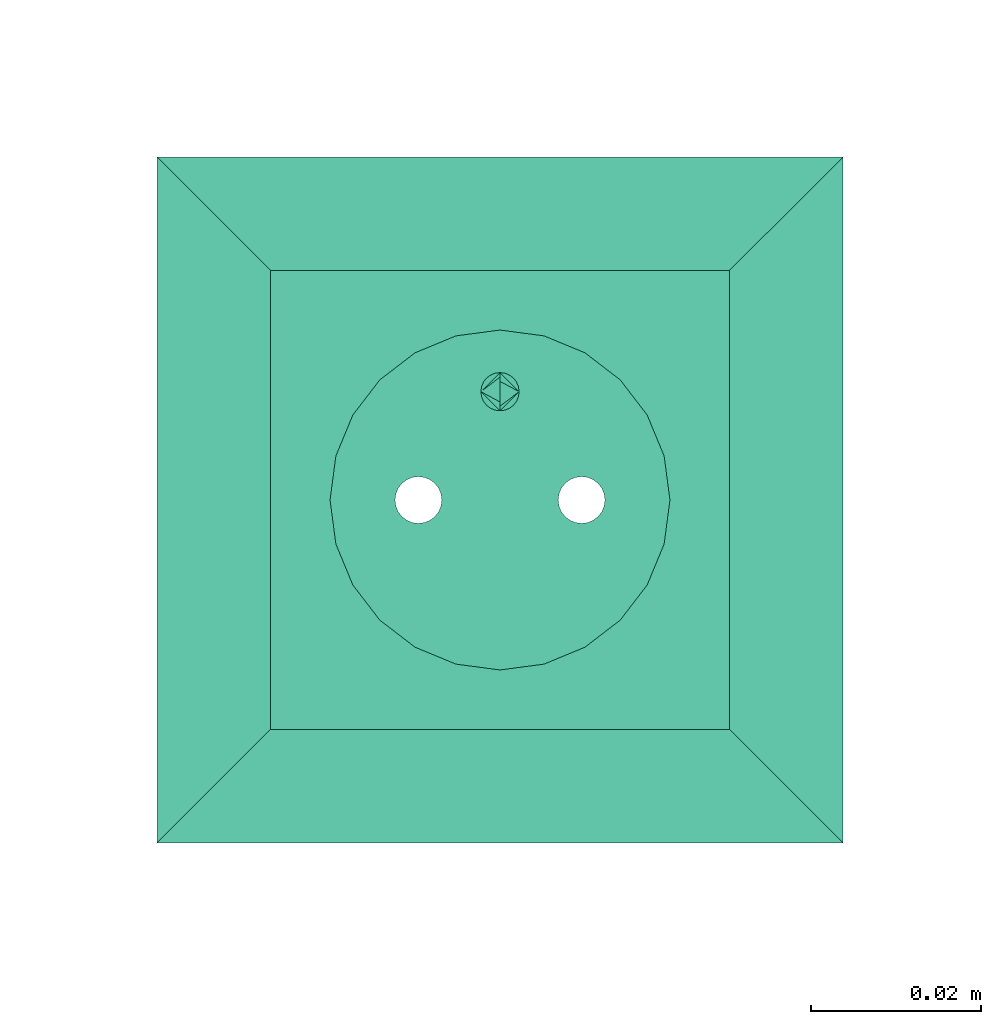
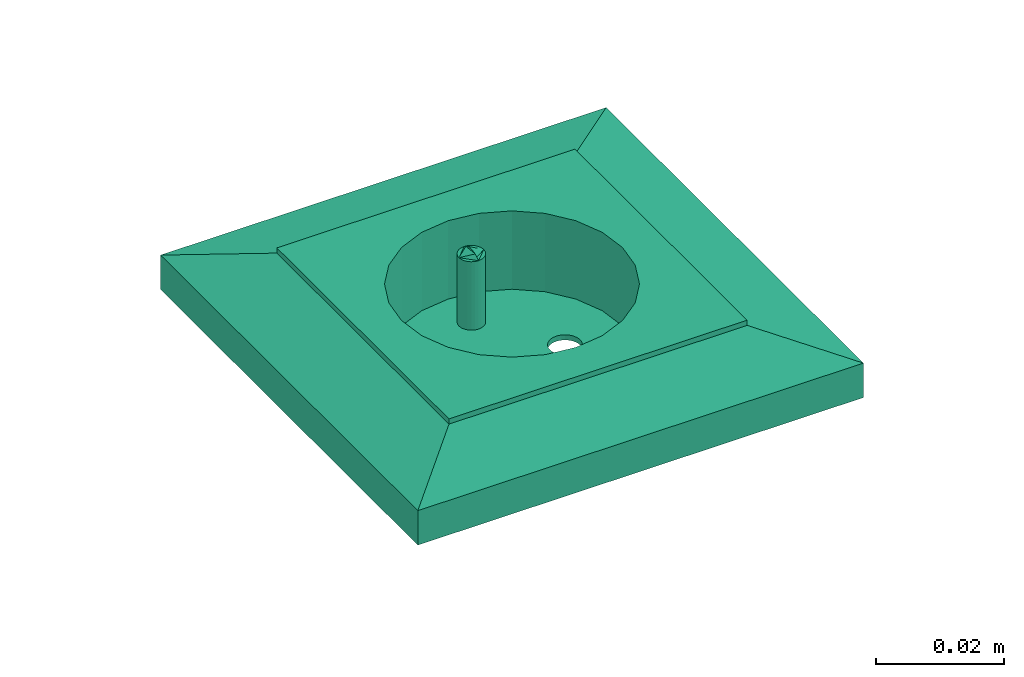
# One storey, part 40 of 153: 1 flow terminal.
"""IFC2X3 building model written with IfcOpenShell, lengths in metres."""

import ifcopenshell
import ifcopenshell.guid

model = None  # the IFC model being written
_history = None  # IfcOwnerHistory: only IFC2X3 demands one
_inside = {}  # id of a spatial element -> (the spatial element, [elements in it])
_under = {}  # id of a project, library or spatial element -> (it, [spatial elements below it])
_declared = {}  # id of a project -> (the project, [libraries it declares])
_typed = {}  # id of a type object -> (the type object, [elements of that type])
_made_of = {}  # id of a material, layer set ... -> (it, [elements and type objects made of it])


def new_model(schema):
    """Start an empty IFC model of exactly this schema.

    Asked for "IFC4X3", IfcOpenShell would pick the latest addendum, in which some entities
    have other attributes; the version numbers below select the first issue.
    IFC2X3 requires an IfcOwnerHistory on every rooted entity: one is made here for all.
    """
    global model, _history
    if schema == "IFC4X3":
        model = ifcopenshell.file(schema_version=(4, 3, 0, 0))
    else:
        model = ifcopenshell.file(schema=schema)
    _inside.clear()
    _under.clear()
    _declared.clear()
    _typed.clear()
    _made_of.clear()
    _history = None
    if model.schema == "IFC2X3":
        org = make("IfcOrganization", Name="unknown")
        user = make(
            "IfcPersonAndOrganization",
            ThePerson=make("IfcPerson", FamilyName="unknown"),
            TheOrganization=org,
        )
        app = make(
            "IfcApplication",
            ApplicationDeveloper=org,
            Version="unknown",
            ApplicationFullName="unknown",
            ApplicationIdentifier="unknown",
        )
        _history = make(
            "IfcOwnerHistory",
            OwningUser=user,
            OwningApplication=app,
            ChangeAction="ADDED",
            CreationDate=0,
        )
    return model


def make(cls, **values):
    """One entity of the class cls with the attributes given. An attribute that is None is left unset."""
    return model.create_entity(
        cls, **{name: value for name, value in values.items() if value is not None}
    )


def entity(cls, *values):
    """Any entity or typed value of the class cls, its attributes in the order of the schema. None: left unset."""
    e = model.create_entity(cls)
    for i, value in enumerate(values):
        if value is not None:
            e[i] = value
    return e


def rooted(cls, **values):
    """An entity with a GlobalId (a new one), such as an element, a storey or a relation."""
    return make(cls, GlobalId=ifcopenshell.guid.new(), OwnerHistory=_history, **values)


def si_unit(unit_type, name, prefix=None):
    """IfcSIUnit, for example si_unit("LENGTHUNIT", "METRE", prefix="MILLI")."""
    return make("IfcSIUnit", UnitType=unit_type, Prefix=prefix, Name=name)


def converted_unit(unit_type, name, factor, base, dimensions=None, offset=None):
    """IfcConversionBasedUnit, such as the inch: factor (a typed value) times the base unit."""
    return make(
        "IfcConversionBasedUnit"
        if offset is None
        else "IfcConversionBasedUnitWithOffset",
        ConversionOffset=offset,
        Dimensions=None
        if dimensions is None
        else entity("IfcDimensionalExponents", *dimensions),
        UnitType=unit_type,
        Name=name,
        ConversionFactor=make(
            "IfcMeasureWithUnit", ValueComponent=factor, UnitComponent=base
        ),
    )


def derived_unit(unit_type, elements):
    """IfcDerivedUnit: a product of units, each with its exponent."""
    return make(
        "IfcDerivedUnit",
        Elements=[
            make("IfcDerivedUnitElement", Unit=unit, Exponent=power)
            for unit, power in elements
        ],
        UnitType=unit_type,
    )


def assignment(units):
    """IfcUnitAssignment: the units of a project."""
    return None if units is None else make("IfcUnitAssignment", Units=units)


def point(xyz):
    """IfcCartesianPoint."""
    return None if xyz is None else make("IfcCartesianPoint", Coordinates=xyz)


def direction(xyz):
    """IfcDirection."""
    return None if xyz is None else make("IfcDirection", DirectionRatios=xyz)


def frame(location, z_axis=None, x_axis=None):
    """IfcAxis2Placement3D, a coordinate frame: its origin and axes. An axis left out is left unset."""
    return make(
        "IfcAxis2Placement3D",
        Location=point(location),
        Axis=direction(z_axis),
        RefDirection=direction(x_axis),
    )


def origin():
    """The frame at (0, 0, 0) with its axes left unset."""
    return frame((0.0, 0.0, 0.0))


def place(relative_to, where):
    """IfcLocalPlacement: puts the frame where relative to a parent placement (None: the world)."""
    return make(
        "IfcLocalPlacement", PlacementRelTo=relative_to, RelativePlacement=where
    )


def context(
    kind, dimensions, precision=None, world=None, true_north=None, identifier=None
):
    """IfcGeometricRepresentationContext, for example the 3D "Model" context."""
    return make(
        "IfcGeometricRepresentationContext",
        ContextIdentifier=identifier,
        ContextType=kind,
        CoordinateSpaceDimension=dimensions,
        Precision=precision,
        WorldCoordinateSystem=world,
        TrueNorth=true_north,
    )


def subcontext(parent, identifier, kind, view, scale=None):
    """IfcGeometricRepresentationSubContext, for example "Body" below "Model"."""
    return make(
        "IfcGeometricRepresentationSubContext",
        ContextIdentifier=identifier,
        ContextType=kind,
        ParentContext=parent,
        TargetScale=scale,
        TargetView=view,
    )


def project(units=None, contexts=None):
    """IfcProject with its units and contexts."""
    return rooted(
        "IfcProject",
        Name="project",
        RepresentationContexts=contexts,
        UnitsInContext=assignment(units),
    )


def spatial(cls, under=None, at=None, **own):
    """A site, building, storey or space (cls), placed at a placement, below another one or the project."""
    s = rooted(cls, ObjectPlacement=at, **own)
    if under is not None:
        _under.setdefault(under.id(), (under, []))[1].append(s)
    return s


def faces_of(points, faces, orient=None, outer=None):
    """IfcFace entities. A face is a list of loops; a loop is a list of indices into points, from 0.

    orient and outer hold one flag for each loop. By default every Orientation is true, the
    first loop of a face is its IfcFaceOuterBound and the others are IfcFaceBound.
    """
    made = []
    for i, loops in enumerate(faces):
        bounds = []
        for j, loop in enumerate(loops):
            is_outer = j == 0 if outer is None else outer[i][j]
            bounds.append(
                make(
                    "IfcFaceOuterBound" if is_outer else "IfcFaceBound",
                    Bound=make("IfcPolyLoop", Polygon=[points[k] for k in loop]),
                    Orientation=True if orient is None else orient[i][j],
                )
            )
        made.append(make("IfcFace", Bounds=bounds))
    return made


def face_set(faces, orient=None, outer=None):
    """The faces of one IfcConnectedFaceSet. surface_model builds it on its shared points."""
    return ("IfcConnectedFaceSet", faces, orient, outer)


def surface_model(cls, points, shells):
    """IfcFaceBasedSurfaceModel or IfcShellBasedSurfaceModel (cls): surfaces that need not close."""
    shared = [point(p) for p in points]
    made = [make(c, CfsFaces=faces_of(shared, fs, o, b)) for c, fs, o, b in shells]
    if cls == "IfcFaceBasedSurfaceModel":
        return make(cls, FbsmFaces=made)
    return make(cls, SbsmBoundary=made)


def shape(context_of_items, identifier, shape_type, items):
    """IfcShapeRepresentation: the items that make up one representation, for example the "Body"."""
    return make(
        "IfcShapeRepresentation",
        ContextOfItems=context_of_items,
        RepresentationIdentifier=identifier,
        RepresentationType=shape_type,
        Items=items,
    )


def source(mapping_origin, context_of_items, identifier, shape_type, items):
    """IfcRepresentationMap: a shape defined once, which mapped items show again and again."""
    return make(
        "IfcRepresentationMap",
        MappingOrigin=mapping_origin,
        MappedRepresentation=shape(context_of_items, identifier, shape_type, items),
    )


def transform(
    local_origin,
    x_axis=None,
    y_axis=None,
    z_axis=None,
    scale=None,
    scale2=None,
    scale3=None,
    uniform=True,
):
    """IfcCartesianTransformationOperator3D, or its non-uniform kind. x_axis, y_axis, z_axis: its Axis1, 2, 3."""
    if uniform:
        return make(
            "IfcCartesianTransformationOperator3D",
            Axis1=direction(x_axis),
            Axis2=direction(y_axis),
            LocalOrigin=point(local_origin),
            Scale=scale,
            Axis3=direction(z_axis),
        )
    return make(
        "IfcCartesianTransformationOperator3DnonUniform",
        Axis1=direction(x_axis),
        Axis2=direction(y_axis),
        LocalOrigin=point(local_origin),
        Scale=scale,
        Axis3=direction(z_axis),
        Scale2=scale2,
        Scale3=scale3,
    )


def mapped(mapping_source, mapping_target):
    """IfcMappedItem: shows the shape of a source again, moved by a transform."""
    return make(
        "IfcMappedItem", MappingSource=mapping_source, MappingTarget=mapping_target
    )


def made_of(thing, what):
    """Note that an element or type object is made of a material, layer set ...; save() writes the relation."""
    if what is not None:
        _made_of.setdefault(what.id(), (what, []))[1].append(thing)
    return thing


def type_object(cls, material=None, **own):
    """A type object (cls), such as IfcWallType, which elements share."""
    return made_of(rooted(cls, **own), material)


def type_shapes(of_type, sources):
    """Give a type object the sources (RepresentationMaps) that its elements show as mapped items."""
    of_type.RepresentationMaps = sources


def element(
    cls,
    number,
    at=None,
    inside=None,
    cuts=None,
    type_object=None,
    material=None,
    context=None,
    identifier="Body",
    shape_type=None,
    held_by="IfcProductDefinitionShape",
    body=None,
    shapes=None,
    **own,
):
    """One element of the class cls, such as IfcWall. Its Tag is "e" and its number.

    at: its placement. inside: the storey or other place that contains it. cuts: it is an
    opening in that element (IfcRelVoidsElement). A single representation is given by context,
    identifier, shape_type and body (its items); several are given by shapes. held_by: the class
    of the entity that holds the representations. save() writes the other relations.
    """
    e = rooted(cls, Tag="e%d" % number, ObjectPlacement=at, **own)
    if body is not None:
        shapes = [shape(context, identifier, shape_type, body)]
    if shapes is not None:
        e.Representation = make(held_by, Representations=shapes)
    if inside is not None:
        _inside.setdefault(inside.id(), (inside, []))[1].append(e)
    if cuts is not None:
        rooted(
            "IfcRelVoidsElement", RelatingBuildingElement=cuts, RelatedOpeningElement=e
        )
    if type_object is not None:
        _typed.setdefault(type_object.id(), (type_object, []))[1].append(e)
    return made_of(e, material)


def aggregate(whole, parts):
    """IfcRelAggregates: a whole, such as a stair, and the parts it consists of."""
    return rooted("IfcRelAggregates", RelatingObject=whole, RelatedObjects=parts)


def save(model, path):
    """Write the relations noted so far, then the file.

    IfcRelAggregates (storeys below a building ...), IfcRelContainedInSpatialStructure (elements
    in a storey), IfcRelDefinesByType, IfcRelAssociatesMaterial and IfcRelDeclares: one each for
    every whole, place, type object, material and project.
    """
    for whole, parts in _under.values():
        aggregate(whole, parts)
    for where, things in _inside.values():
        rooted(
            "IfcRelContainedInSpatialStructure",
            RelatedElements=things,
            RelatingStructure=where,
        )
    for kind, things in _typed.values():
        rooted("IfcRelDefinesByType", RelatedObjects=things, RelatingType=kind)
    for what, things in _made_of.values():
        rooted("IfcRelAssociatesMaterial", RelatedObjects=things, RelatingMaterial=what)
    for by, libraries in _declared.values():
        rooted("IfcRelDeclares", RelatingContext=by, RelatedDefinitions=libraries)
    model.write(path)


model = new_model("IFC2X3")

# Units and contexts
model_context = context("Model", 3, precision=1e-05, world=origin(), true_north=direction((6.12303176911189e-17, 1.0)))
body_context = subcontext(model_context, "Body", "Model", "MODEL_VIEW")
ifc_project = project(units=[si_unit("LENGTHUNIT", "METRE"), si_unit("AREAUNIT", "SQUARE_METRE"), si_unit("VOLUMEUNIT", "CUBIC_METRE"), converted_unit("PLANEANGLEUNIT", "DEGREE", entity("IfcRatioMeasure", 0.0174532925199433), si_unit("PLANEANGLEUNIT", "RADIAN"), dimensions=[0, 0, 0, 0, 0, 0, 0]), si_unit("MASSUNIT", "GRAM", prefix="KILO"), derived_unit("MASSDENSITYUNIT", [(si_unit("MASSUNIT", "GRAM", prefix="KILO"), 1), (si_unit("LENGTHUNIT", "METRE"), -3)]), si_unit("TIMEUNIT", "SECOND"), si_unit("FREQUENCYUNIT", "HERTZ"), si_unit("THERMODYNAMICTEMPERATUREUNIT", "DEGREE_CELSIUS"), derived_unit("THERMALTRANSMITTANCEUNIT", [(si_unit("MASSUNIT", "GRAM", prefix="KILO"), 1), (si_unit("THERMODYNAMICTEMPERATUREUNIT", "KELVIN"), -1), (si_unit("TIMEUNIT", "SECOND"), -3)]), derived_unit("VOLUMETRICFLOWRATEUNIT", [(si_unit("LENGTHUNIT", "METRE"), 3), (si_unit("TIMEUNIT", "SECOND"), -1)]), si_unit("ELECTRICCURRENTUNIT", "AMPERE"), si_unit("ELECTRICVOLTAGEUNIT", "VOLT"), si_unit("POWERUNIT", "WATT"), si_unit("FORCEUNIT", "NEWTON"), si_unit("ILLUMINANCEUNIT", "LUX"), si_unit("LUMINOUSFLUXUNIT", "LUMEN"), si_unit("LUMINOUSINTENSITYUNIT", "CANDELA"), derived_unit("USERDEFINED", [(si_unit("MASSUNIT", "GRAM", prefix="KILO"), -1), (si_unit("LENGTHUNIT", "METRE"), -2), (si_unit("TIMEUNIT", "SECOND"), 3), (si_unit("LUMINOUSFLUXUNIT", "LUMEN"), 1)]), derived_unit("LINEARVELOCITYUNIT", [(si_unit("LENGTHUNIT", "METRE"), 1), (si_unit("TIMEUNIT", "SECOND"), -1)]), si_unit("PRESSUREUNIT", "PASCAL"), derived_unit("USERDEFINED", [(si_unit("LENGTHUNIT", "METRE"), -2), (si_unit("MASSUNIT", "GRAM", prefix="KILO"), 1), (si_unit("TIMEUNIT", "SECOND"), -2)])], contexts=[model_context])

# Site, building, storey
site_placement = place(None, origin())
site = spatial("IfcSite", under=ifc_project, at=site_placement, Name="Default", CompositionType="ELEMENT")
building_placement = place(site_placement, origin())
building = spatial("IfcBuilding", under=site, at=building_placement, CompositionType="ELEMENT")
storey_placement = place(building_placement, frame((0.0, 0.0, -4.62)))
storey = spatial("IfcBuildingStorey", under=building, at=storey_placement, Name="S02", CompositionType="ELEMENT", Elevation=-4.62)

# Flow terminal
light_fixture_type = type_object("IfcLightFixtureType", Name="PC IP55", PredefinedType="NOTDEFINED")
shared_shape = source(origin(), body_context, "Body", "SurfaceModel", [
    surface_model("IfcFaceBasedSurfaceModel", [(-0.00225000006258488, 0.0127499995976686, 0.00949633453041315), (0.0, 0.0104999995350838, 0.00949633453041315), (0.0, 0.0115376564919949, 0.0101656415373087), (0.0, 0.0139623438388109, 0.0101656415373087), (0.0, 0.0144589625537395, 0.00984531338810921), (0.0, 0.0121178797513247, 0.0102778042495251), (0.0, 0.0133821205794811, 0.0102778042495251), (0.0, 0.0127499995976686, 0.010399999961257), (0.0, 0.0149999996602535, 0.00949633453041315), (0.00225000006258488, 0.0127499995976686, 0.00949633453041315), (0.0, 0.0110410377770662, 0.00984531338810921), (0.0, 0.0127499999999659, 0.00949633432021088), (0.00225000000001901, 0.0127499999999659, 0.00949633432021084), (0.00217333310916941, 0.0121676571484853, 0.00949633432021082), (0.00194855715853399, 0.0116249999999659, 0.00949633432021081), (0.00159099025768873, 0.0111590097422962, 0.00949633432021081), (0.001125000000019, 0.010801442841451, 0.00949633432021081), (0.00058234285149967, 0.0105766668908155, 0.00949633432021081), (0.0, 0.0104999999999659, 0.00949633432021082), (-0.000582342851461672, 0.0105766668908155, 0.00949633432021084), (-0.001124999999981, 0.010801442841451, 0.00949633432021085), (-0.00159099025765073, 0.0111590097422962, 0.00949633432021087), (-0.00194855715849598, 0.011624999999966, 0.00949633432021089), (-0.0021733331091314, 0.0121676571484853, 0.00949633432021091), (-0.00224999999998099, 0.012749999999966, 0.00949633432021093), (-0.00217333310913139, 0.0133323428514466, 0.00949633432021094), (-0.00194855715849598, 0.013874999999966, 0.00949633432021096), (-0.00159099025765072, 0.0143409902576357, 0.00949633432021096), (-0.00112499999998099, 0.0146985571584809, 0.00949633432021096), (-0.00058234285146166, 0.0149233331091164, 0.00949633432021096), (0.0, 0.0149999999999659, 0.00949633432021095), (0.000582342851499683, 0.0149233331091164, 0.00949633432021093), (0.00112500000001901, 0.0146985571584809, 0.00949633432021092), (0.00159099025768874, 0.0143409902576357, 0.00949633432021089), (0.001948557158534, 0.0138749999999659, 0.00949633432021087), (0.00217333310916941, 0.0133323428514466, 0.00949633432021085), (0.00225000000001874, 0.0127499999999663, -0.00360000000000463), (0.00217333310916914, 0.0121676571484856, -0.00360000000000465), (0.00194855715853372, 0.0116249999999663, -0.00360000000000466), (0.00159099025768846, 0.0111590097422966, -0.00360000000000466), (0.00112500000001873, 0.0108014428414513, -0.00360000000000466), (0.000582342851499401, 0.0105766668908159, -0.00360000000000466), (0.0, 0.0104999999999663, -0.00360000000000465), (-0.000582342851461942, 0.0105766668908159, -0.00360000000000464), (-0.00112499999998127, 0.0108014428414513, -0.00360000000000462), (-0.001590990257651, 0.0111590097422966, -0.0036000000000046), (-0.00194855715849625, 0.0116249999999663, -0.00360000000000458), (-0.00217333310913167, 0.0121676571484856, -0.00360000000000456), (-0.00224999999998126, 0.0127499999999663, -0.00360000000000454), (-0.00217333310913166, 0.013332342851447, -0.00360000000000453), (-0.00194855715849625, 0.0138749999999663, -0.00360000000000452), (-0.00159099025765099, 0.014340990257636, -0.00360000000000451), (-0.00112499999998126, 0.0146985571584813, -0.00360000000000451), (-0.000582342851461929, 0.0149233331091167, -0.00360000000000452), (0.0, 0.0149999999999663, -0.00360000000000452), (0.000582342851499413, 0.0149233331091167, -0.00360000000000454), (0.00112500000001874, 0.0146985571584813, -0.00360000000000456), (0.00159099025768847, 0.014340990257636, -0.00360000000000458), (0.00194855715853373, 0.0138749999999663, -0.0036000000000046), (0.00217333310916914, 0.013332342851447, -0.00360000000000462), (0.0270000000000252, 0.026999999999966, 0.0113999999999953), (-0.0269999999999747, 0.026999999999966, 0.0113999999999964), (-0.0269999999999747, -0.0270000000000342, 0.0113999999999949), (0.0270000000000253, -0.0270000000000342, 0.0113999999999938), (-0.0199999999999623, 0.0, 0.0113999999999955), (-0.0193185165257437, -0.00517638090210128, 0.0113999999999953), (-0.0173205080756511, -0.0100000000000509, 0.0113999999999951), (-0.0141421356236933, -0.0141421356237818, 0.011399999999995), (-0.00999999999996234, -0.0173205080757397, 0.0113999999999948), (-0.00517638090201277, -0.0193185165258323, 0.0113999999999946), (0.0, -0.0200000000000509, 0.0113999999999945), (0.00517638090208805, -0.0193185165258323, 0.0113999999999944), (0.0100000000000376, -0.0173205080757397, 0.0113999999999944), (0.0141421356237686, -0.0141421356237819, 0.0113999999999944), (0.0173205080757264, -0.010000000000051, 0.0113999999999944), (0.0193185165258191, -0.00517638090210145, 0.0113999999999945), (0.0200000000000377, 0.0, 0.0113999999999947), (0.0193185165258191, 0.00517638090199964, 0.0113999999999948), (0.0173205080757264, 0.0099999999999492, 0.011399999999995), (0.0141421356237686, 0.0141421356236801, 0.0113999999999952), (0.0100000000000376, 0.0173205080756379, 0.0113999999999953), (0.00517638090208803, 0.0193185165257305, 0.0113999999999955), (0.0, 0.0199999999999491, 0.0113999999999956), (-0.00517638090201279, 0.0193185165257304, 0.0113999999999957), (-0.00999999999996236, 0.0173205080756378, 0.0113999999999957), (-0.0141421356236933, 0.01414213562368, 0.0113999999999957), (-0.0173205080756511, 0.00999999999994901, 0.0113999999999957), (-0.0193185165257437, 0.00517638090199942, 0.0113999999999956), (0.0270000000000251, 0.0269999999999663, 0.00199999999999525), (0.0270000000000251, -0.0270000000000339, 0.00199999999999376), (-0.0269999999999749, -0.0270000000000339, 0.00199999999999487), (-0.0269999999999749, 0.0269999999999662, 0.00199999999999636), (0.0210000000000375, 0.0, 0.00199999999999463), (0.0202844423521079, -0.00543519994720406, 0.00199999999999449), (0.0181865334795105, -0.0105000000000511, 0.0019999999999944), (0.0148492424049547, -0.0148492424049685, 0.00199999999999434), (0.0105000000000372, -0.0181865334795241, 0.00199999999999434), (0.0054351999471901, -0.0202844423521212, 0.00199999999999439), (0.0, -0.0210000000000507, 0.00199999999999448), (-0.00543519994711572, -0.020284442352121, 0.00199999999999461), (-0.0104999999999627, -0.0181865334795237, 0.00199999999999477), (-0.0148492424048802, -0.014849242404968, 0.00199999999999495), (-0.0181865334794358, -0.0105000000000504, 0.00199999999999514), (-0.020284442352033, -0.00543519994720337, 0.00199999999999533), (-0.0209999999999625, 0.0, 0.00199999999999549), (-0.0202844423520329, 0.0054351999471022, 0.00199999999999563), (-0.0181865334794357, 0.0104999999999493, 0.00199999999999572), (-0.01484924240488, 0.0148492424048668, 0.00199999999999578), (-0.0104999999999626, 0.0181865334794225, 0.00199999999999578), (-0.00543519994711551, 0.0202844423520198, 0.00199999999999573), (0.0, 0.0209999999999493, 0.00199999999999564), (0.00543519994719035, 0.0202844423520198, 0.00199999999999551), (0.0105000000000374, 0.0181865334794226, 0.00199999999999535), (0.0148492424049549, 0.0148492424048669, 0.00199999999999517), (0.0181865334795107, 0.0104999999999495, 0.00199999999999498), (0.0202844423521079, 0.00543519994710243, 0.00199999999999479), (0.0200000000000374, 0.0, -0.00360000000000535), (0.0193185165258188, -0.00517638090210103, -0.00360000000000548), (0.0173205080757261, -0.0100000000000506, -0.00360000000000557), (0.0141421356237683, -0.0141421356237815, -0.00360000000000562), (0.0100000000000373, -0.0173205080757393, -0.00360000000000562), (0.00517638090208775, -0.0193185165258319, -0.00360000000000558), (0.0, -0.0200000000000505, -0.00360000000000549), (-0.00517638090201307, -0.0193185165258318, -0.00360000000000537), (-0.00999999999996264, -0.0173205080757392, -0.00360000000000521), (-0.0141421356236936, -0.0141421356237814, -0.00360000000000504), (-0.0173205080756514, -0.0100000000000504, -0.00360000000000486), (-0.019318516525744, -0.00517638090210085, -0.00360000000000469), (-0.0199999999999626, 0.0, -0.00360000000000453), (-0.0193185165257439, 0.00517638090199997, -0.0036000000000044), (-0.0173205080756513, 0.00999999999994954, -0.00360000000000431), (-0.0141421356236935, 0.0141421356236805, -0.00360000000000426), (-0.00999999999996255, 0.0173205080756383, -0.00360000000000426), (-0.00517638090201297, 0.0193185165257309, -0.0036000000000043), (0.0, 0.0199999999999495, -0.00360000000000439), (0.00517638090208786, 0.0193185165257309, -0.00360000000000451), (0.0100000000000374, 0.0173205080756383, -0.00360000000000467), (0.0141421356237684, 0.0141421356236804, -0.00360000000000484), (0.0173205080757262, 0.0099999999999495, -0.00360000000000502), (0.0193185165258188, 0.00517638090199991, -0.00360000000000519), (-0.0123499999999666, 0.0, -0.00360000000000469), (-0.0122562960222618, -0.000711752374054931, -0.00360000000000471), (-0.0119815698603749, -0.00137500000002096, -0.00360000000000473), (-0.0115445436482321, -0.00194454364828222, -0.00360000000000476), (-0.0109749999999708, -0.00238156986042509, -0.00360000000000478), (-0.0103117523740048, -0.00265629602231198, -0.0036000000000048), (-0.00959999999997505, -0.00275000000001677, -0.00360000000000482), (-0.0088882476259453, -0.00265629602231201, -0.00360000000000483), (-0.00822499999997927, -0.00238156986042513, -0.00360000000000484), (-0.00765545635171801, -0.00194454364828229, -0.00360000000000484), (-0.00721843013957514, -0.00137500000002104, -0.00360000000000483), (-0.00694370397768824, -0.000711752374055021, -0.00360000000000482), (-0.00684999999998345, 0.0, -0.0036000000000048), (-0.00694370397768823, 0.000711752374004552, -0.00360000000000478), (-0.00721843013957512, 0.00137499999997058, -0.00360000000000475), (-0.00765545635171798, 0.00194454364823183, -0.00360000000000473), (-0.00822499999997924, 0.00238156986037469, -0.0036000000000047), (-0.00888824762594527, 0.00265629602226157, -0.00360000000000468), (-0.00959999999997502, 0.00274999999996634, -0.00360000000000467), (-0.0103117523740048, 0.00265629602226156, -0.00360000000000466), (-0.0109749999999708, 0.00238156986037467, -0.00360000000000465), (-0.011544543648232, 0.00194454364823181, -0.00360000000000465), (-0.0119815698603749, 0.00137499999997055, -0.00360000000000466), (-0.0122562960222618, 0.000711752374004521, -0.00360000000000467), (0.00685000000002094, 0.0, -0.00360000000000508), (0.0069437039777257, -0.00071175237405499, -0.0036000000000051), (0.00721843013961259, -0.00137500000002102, -0.00360000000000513), (0.00765545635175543, -0.00194454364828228, -0.00360000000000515), (0.00822500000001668, -0.00238156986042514, -0.00360000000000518), (0.00888824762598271, -0.00265629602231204, -0.0036000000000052), (0.00960000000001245, -0.00275000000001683, -0.00360000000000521), (0.0103117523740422, -0.00265629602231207, -0.00360000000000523), (0.0109750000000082, -0.00238156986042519, -0.00360000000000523), (0.0115445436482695, -0.00194454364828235, -0.00360000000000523), (0.0119815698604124, -0.0013750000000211, -0.00360000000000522), (0.0122562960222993, -0.00071175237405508, -0.00360000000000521), (0.012350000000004, 0.0, -0.00360000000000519), (0.0122562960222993, 0.000711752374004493, -0.00360000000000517), (0.0119815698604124, 0.00137499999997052, -0.00360000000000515), (0.0115445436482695, 0.00194454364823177, -0.00360000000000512), (0.0109750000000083, 0.00238156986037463, -0.0036000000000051), (0.0103117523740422, 0.00265629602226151, -0.00360000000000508), (0.00960000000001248, 0.00274999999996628, -0.00360000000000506), (0.00888824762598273, 0.0026562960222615, -0.00360000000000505), (0.0082250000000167, 0.00238156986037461, -0.00360000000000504), (0.00765545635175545, 0.00194454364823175, -0.00360000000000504), (0.0072184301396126, 0.00137499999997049, -0.00360000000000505), (0.00694370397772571, 0.000711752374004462, -0.00360000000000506), (0.0210000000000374, 0.0, -0.00460000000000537), (0.0202844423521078, -0.00543519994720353, -0.00460000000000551), (0.0181865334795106, -0.0105000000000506, -0.0046000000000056), (0.0148492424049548, -0.0148492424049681, -0.00460000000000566), (0.0105000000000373, -0.0181865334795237, -0.00460000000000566), (0.00543519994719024, -0.0202844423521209, -0.00460000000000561), (0.0, -0.0210000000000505, -0.00460000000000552), (-0.00543519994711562, -0.0202844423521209, -0.00460000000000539), (-0.0104999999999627, -0.0181865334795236, -0.00460000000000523), (-0.0148492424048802, -0.0148492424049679, -0.00460000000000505), (-0.0181865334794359, -0.0105000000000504, -0.00460000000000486), (-0.0202844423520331, -0.00543519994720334, -0.00460000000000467), (-0.0209999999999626, 0.0, -0.00460000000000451), (-0.020284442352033, 0.00543519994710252, -0.00460000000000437), (-0.0181865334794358, 0.0104999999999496, -0.00460000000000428), (-0.0148492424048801, 0.0148492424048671, -0.00460000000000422), (-0.0104999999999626, 0.0181865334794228, -0.00460000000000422), (-0.00543519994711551, 0.02028444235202, -0.00460000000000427), (0.0, 0.0209999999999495, -0.00460000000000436), (0.00543519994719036, 0.02028444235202, -0.00460000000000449), (0.0105000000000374, 0.0181865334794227, -0.00460000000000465), (0.0148492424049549, 0.014849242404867, -0.00460000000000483), (0.0181865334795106, 0.0104999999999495, -0.00460000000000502), (0.0202844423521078, 0.00543519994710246, -0.00460000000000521), (-0.00684999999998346, 0.0, -0.0046000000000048), (-0.00694370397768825, 0.000711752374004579, -0.00460000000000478), (-0.00721843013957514, 0.00137499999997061, -0.00460000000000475), (-0.007655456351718, 0.00194454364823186, -0.00460000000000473), (-0.00822499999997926, 0.00238156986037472, -0.0046000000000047), (-0.00888824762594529, 0.0026562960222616, -0.00460000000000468), (-0.00959999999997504, 0.00274999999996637, -0.00460000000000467), (-0.0103117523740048, 0.00265629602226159, -0.00460000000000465), (-0.0109749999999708, 0.0023815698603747, -0.00460000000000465), (-0.0115445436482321, 0.00194454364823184, -0.00460000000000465), (-0.0119815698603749, 0.00137499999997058, -0.00460000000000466), (-0.0122562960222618, 0.000711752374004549, -0.00460000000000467), (-0.0123499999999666, 0.0, -0.00460000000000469), (-0.0122562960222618, -0.000711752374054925, -0.00460000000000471), (-0.0119815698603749, -0.00137500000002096, -0.00460000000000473), (-0.0115445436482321, -0.00194454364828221, -0.00460000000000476), (-0.0109749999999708, -0.00238156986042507, -0.00460000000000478), (-0.0103117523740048, -0.00265629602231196, -0.0046000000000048), (-0.00959999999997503, -0.00275000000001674, -0.00460000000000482), (-0.00888824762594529, -0.00265629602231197, -0.00460000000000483), (-0.00822499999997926, -0.00238156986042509, -0.00460000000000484), (-0.007655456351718, -0.00194454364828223, -0.00460000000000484), (-0.00721843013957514, -0.00137500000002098, -0.00460000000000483), (-0.00694370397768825, -0.000711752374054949, -0.00460000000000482), (0.012350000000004, 0.0, -0.00460000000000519), (0.0122562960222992, 0.000711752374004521, -0.00460000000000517), (0.0119815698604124, 0.00137499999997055, -0.00460000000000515), (0.0115445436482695, 0.0019445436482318, -0.00460000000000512), (0.0109750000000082, 0.00238156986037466, -0.0046000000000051), (0.0103117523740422, 0.00265629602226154, -0.00460000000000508), (0.00960000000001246, 0.00274999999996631, -0.00460000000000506), (0.00888824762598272, 0.00265629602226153, -0.00460000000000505), (0.00822500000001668, 0.00238156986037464, -0.00460000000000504), (0.00765545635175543, 0.00194454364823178, -0.00460000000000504), (0.00721843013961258, 0.00137499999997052, -0.00460000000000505), (0.00694370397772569, 0.00071175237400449, -0.00460000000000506), (0.00685000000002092, 0.0, -0.00460000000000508), (0.00694370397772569, -0.000711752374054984, -0.0046000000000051), (0.00721843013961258, -0.00137500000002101, -0.00460000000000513), (0.00765545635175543, -0.00194454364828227, -0.00460000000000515), (0.00822500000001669, -0.00238156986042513, -0.00460000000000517), (0.00888824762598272, -0.00265629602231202, -0.0046000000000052), (0.00960000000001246, -0.0027500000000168, -0.00460000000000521), (0.0103117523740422, -0.00265629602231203, -0.00460000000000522), (0.0109750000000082, -0.00238156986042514, -0.00460000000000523), (0.0115445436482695, -0.00194454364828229, -0.00460000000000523), (0.0119815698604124, -0.00137500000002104, -0.00460000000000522), (0.0122562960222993, -0.000711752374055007, -0.00460000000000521), (0.040350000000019, 0.0403499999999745, 0.00659999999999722), (0.040350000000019, -0.0403500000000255, 0.00659999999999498), (-0.0403499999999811, -0.0403500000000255, 0.00659999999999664), (-0.0403499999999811, 0.0403499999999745, 0.00659999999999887), (0.027000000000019, 0.0269999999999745, 0.00659999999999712), (-0.0269999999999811, 0.0269999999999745, 0.00659999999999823), (-0.026999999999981, -0.0270000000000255, 0.00659999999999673), (0.027000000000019, -0.0270000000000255, 0.00659999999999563), (0.027000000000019, 0.0269999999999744, 0.0103999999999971), (-0.026999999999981, 0.0269999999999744, 0.0103999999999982), (-0.026999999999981, -0.0270000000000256, 0.0103999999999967), (0.027000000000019, -0.0270000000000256, 0.0103999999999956), (0.040350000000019, 0.0403499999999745, 0.00659999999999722), (0.040350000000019, -0.0403500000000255, 0.00659999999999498), (-0.0403499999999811, -0.0403500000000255, 0.00659999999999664), (-0.0403499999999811, 0.0403499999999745, 0.00659999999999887), (-0.0269999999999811, 0.0269999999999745, 0.00659999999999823), (-0.0269999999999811, -0.0270000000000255, 0.00659999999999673), (0.0270000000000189, -0.0270000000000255, 0.00659999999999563), (0.0270000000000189, 0.0269999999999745, 0.00659999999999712), (0.0403500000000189, 0.0403499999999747, 0.0), (0.0403500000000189, -0.0403500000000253, 0.0), (-0.0403499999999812, -0.0403500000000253, 0.0), (-0.0403499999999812, 0.0403499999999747, 0.0), (0.0270000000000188, 0.0269999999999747, 0.0), (-0.0269999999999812, 0.0269999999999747, 0.0), (-0.0269999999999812, -0.0270000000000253, 0.0), (0.0270000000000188, -0.0270000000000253, 0.0)], [face_set([[[0, 1, 2]], [[3, 4, 2, 5]], [[6, 3, 5, 7]], [[2, 4, 0]], [[4, 8, 0]], [[3, 9, 8]], [[1, 9, 10]], [[2, 3, 6, 7]], [[3, 10, 9]], [[2, 10, 3]], [[11, 1, 0, 8]], [[11, 8, 9, 1]]]), face_set([[[12, 13, 14, 15, 16, 17, 18, 19, 20, 21, 22, 23, 24, 25, 26, 27, 28, 29, 30, 31, 32, 33, 34, 35]], [[36, 37, 38, 39, 40, 41, 42, 43, 44, 45, 46, 47, 48, 49, 50, 51, 52, 53, 54, 55, 56, 57, 58, 59]], [[48, 47, 23, 24]], [[47, 46, 22, 23]], [[45, 44, 20, 21]], [[46, 45, 21, 22]], [[44, 43, 19, 20]], [[18, 19, 43, 42]], [[42, 41, 17, 18]], [[41, 40, 16, 17]], [[39, 38, 14, 15]], [[40, 39, 15, 16]], [[38, 37, 13, 14]], [[12, 13, 37, 36]], [[36, 59, 35, 12]], [[59, 58, 34, 35]], [[57, 56, 32, 33]], [[58, 57, 33, 34]], [[56, 55, 31, 32]], [[30, 31, 55, 54]], [[54, 53, 29, 30]], [[53, 52, 28, 29]], [[51, 50, 26, 27]], [[52, 51, 27, 28]], [[50, 49, 25, 26]], [[24, 25, 49, 48]]]), face_set([[[60, 61, 62, 63], [64, 65, 66, 67, 68, 69, 70, 71, 72, 73, 74, 75, 76, 77, 78, 79, 80, 81, 82, 83, 84, 85, 86, 87]], [[88, 89, 90, 91], [92, 93, 94, 95, 96, 97, 98, 99, 100, 101, 102, 103, 104, 105, 106, 107, 108, 109, 110, 111, 112, 113, 114, 115]], [[61, 60, 88, 91]], [[62, 61, 91, 90]], [[63, 62, 90, 89]], [[60, 63, 89, 88]], [[116, 117, 118, 119, 120, 121, 122, 123, 124, 125, 126, 127, 128, 129, 130, 131, 132, 133, 134, 135, 136, 137, 138, 139], [140, 141, 142, 143, 144, 145, 146, 147, 148, 149, 150, 151, 152, 153, 154, 155, 156, 157, 158, 159, 160, 161, 162, 163], [164, 165, 166, 167, 168, 169, 170, 171, 172, 173, 174, 175, 176, 177, 178, 179, 180, 181, 182, 183, 184, 185, 186, 187]], [[64, 128, 127, 65]], [[65, 127, 126, 66]], [[67, 125, 124, 68]], [[66, 126, 125, 67]], [[68, 124, 123, 69]], [[122, 70, 69, 123]], [[70, 122, 121, 71]], [[71, 121, 120, 72]], [[73, 119, 118, 74]], [[72, 120, 119, 73]], [[74, 118, 117, 75]], [[116, 76, 75, 117]], [[76, 116, 139, 77]], [[77, 139, 138, 78]], [[79, 137, 136, 80]], [[78, 138, 137, 79]], [[80, 136, 135, 81]], [[134, 82, 81, 135]], [[82, 134, 133, 83]], [[83, 133, 132, 84]], [[84, 132, 131, 85]], [[85, 131, 130, 86]], [[130, 129, 87, 86]], [[64, 87, 129, 128]], [[188, 189, 190, 191, 192, 193, 194, 195, 196, 197, 198, 199, 200, 201, 202, 203, 204, 205, 206, 207, 208, 209, 210, 211], [212, 213, 214, 215, 216, 217, 218, 219, 220, 221, 222, 223, 224, 225, 226, 227, 228, 229, 230, 231, 232, 233, 234, 235], [236, 237, 238, 239, 240, 241, 242, 243, 244, 245, 246, 247, 248, 249, 250, 251, 252, 253, 254, 255, 256, 257, 258, 259]], [[200, 199, 103, 104]], [[199, 198, 102, 103]], [[197, 196, 100, 101]], [[198, 197, 101, 102]], [[196, 195, 99, 100]], [[98, 99, 195, 194]], [[194, 193, 97, 98]], [[193, 192, 96, 97]], [[191, 190, 94, 95]], [[192, 191, 95, 96]], [[190, 189, 93, 94]], [[92, 93, 189, 188]], [[188, 211, 115, 92]], [[211, 210, 114, 115]], [[209, 208, 112, 113]], [[210, 209, 113, 114]], [[208, 207, 111, 112]], [[110, 111, 207, 206]], [[206, 205, 109, 110]], [[205, 204, 108, 109]], [[203, 202, 106, 107]], [[204, 203, 107, 108]], [[202, 201, 105, 106]], [[104, 105, 201, 200]], [[141, 225, 226, 142]], [[140, 224, 225, 141]], [[144, 228, 229, 145]], [[143, 227, 228, 144]], [[142, 226, 227, 143]], [[230, 146, 145, 229]], [[149, 233, 232, 148]], [[148, 232, 231, 147]], [[152, 212, 235, 151]], [[151, 235, 234, 150]], [[150, 234, 233, 149]], [[146, 230, 231, 147]], [[154, 214, 213, 153]], [[153, 213, 212, 152]], [[157, 217, 216, 156]], [[156, 216, 215, 155]], [[155, 215, 214, 154]], [[218, 158, 157, 217]], [[160, 220, 221, 161]], [[159, 219, 220, 160]], [[163, 223, 224, 140]], [[162, 222, 223, 163]], [[161, 221, 222, 162]], [[158, 218, 219, 159]], [[166, 250, 249, 165]], [[165, 249, 248, 164]], [[169, 253, 252, 168]], [[168, 252, 251, 167]], [[167, 251, 250, 166]], [[254, 170, 169, 253]], [[172, 256, 257, 173]], [[171, 255, 256, 172]], [[175, 259, 236, 176]], [[174, 258, 259, 175]], [[173, 257, 258, 174]], [[170, 254, 255, 171]], [[177, 237, 238, 178]], [[176, 236, 237, 177]], [[180, 240, 241, 181]], [[179, 239, 240, 180]], [[178, 238, 239, 179]], [[242, 182, 181, 241]], [[185, 245, 244, 184]], [[184, 244, 243, 183]], [[164, 248, 247, 187]], [[187, 247, 246, 186]], [[186, 246, 245, 185]], [[182, 242, 243, 183]]]), face_set([[[260, 261, 262, 263], [264, 265, 266, 267]], [[260, 268, 269, 263]], [[263, 269, 270, 262]], [[262, 270, 271, 261]], [[261, 271, 268, 260]], [[264, 265, 269, 268]], [[265, 266, 270, 269]], [[266, 267, 271, 270]], [[268, 271, 267, 264]]]), face_set([[[272, 273, 274, 275], [276, 277, 278, 279]], [[280, 281, 282, 283], [284, 285, 286, 287]], [[275, 272, 280, 283]], [[274, 275, 283, 282]], [[273, 274, 282, 281]], [[272, 273, 281, 280]], [[284, 285, 276, 279]], [[285, 286, 277, 276]], [[286, 287, 278, 277]], [[279, 278, 287, 284]]])]),
])
type_shapes(light_fixture_type, [shared_shape])
flow_terminal_placement = place(storey_placement, frame((41.0350562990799, -193.482864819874, 12.45)))
element("IfcFlowTerminal", 1, at=flow_terminal_placement, inside=storey, type_object=light_fixture_type, Name="INT Prise de courant:PC IP55", ObjectType="INT Prise de courant:PC IP55", context=body_context, shape_type="MappedRepresentation", body=[
    mapped(shared_shape, transform((0.0, 0.0, 0.0), scale=1.0)),
])

save(model, "model.ifc")
